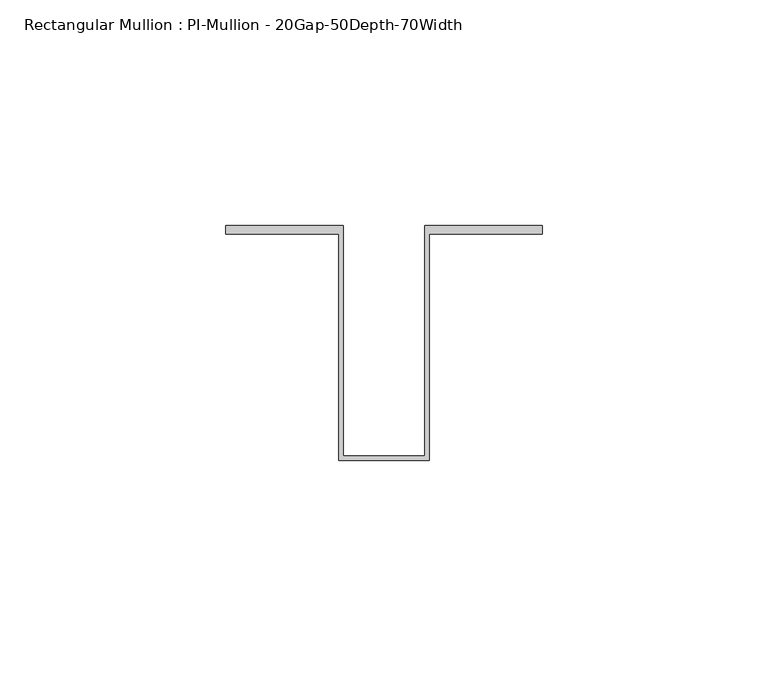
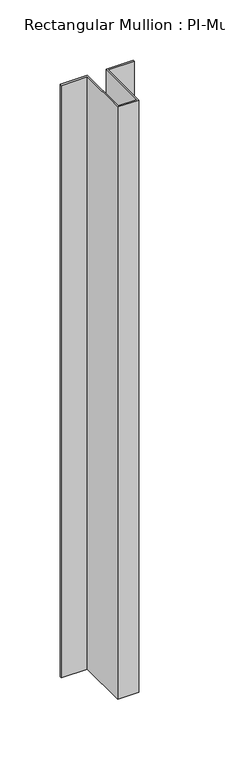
"""IFC4 building model written with IfcOpenShell, lengths in millimetres: member geometry, Rectangular Mullion : PI-Mullion - 20Gap-50Depth-70Width."""

from ifc_helpers import new_model, si_unit, frame, origin, place, context, project, spatial, polyline, outline, extrude, source, transform, mapped, element, save


def rectangular_mullion_pi_mullion_20gap_50depth_70width_4eeb9ecc(model_context):
    return source(origin(), model_context, "Body", "SweptSolid", [
        extrude(outline(polyline([(-10.0, 0.2), (-35.0, 0.2), (-35.0, 2.0), (-9.0, 2.0), (-9.0, -49.0), (9.0, -49.0), (9.0, 2.0), (35.0, 2.0), (35.0, 0.2), (10.0, 0.2), (10.0, -50.0), (-10.0, -50.0), (-10.0, 0.2)])), frame((0.0, 0.0, -600.0), z_axis=(0.0, 0.0, 1.0), x_axis=(1.0, 0.0, 0.0)), (0.0, 0.0, 1.0), 600.0),
    ])


if __name__ == "__main__":
    model = new_model("IFC4")
    model_context = context("Model", 3, world=origin())
    ifc_project = project(units=[si_unit("LENGTHUNIT", "METRE", prefix="MILLI")], contexts=[model_context])
    site = spatial("IfcSite", under=ifc_project)
    building = spatial("IfcBuilding", under=site)
    placement = place(None, origin())
    rectangular_mullion_pi_mullion_20gap_50depth_70width_shape = rectangular_mullion_pi_mullion_20gap_50depth_70width_4eeb9ecc(model_context)
    element("IfcMember", 1, ObjectType="Rectangular Mullion : PI-Mullion - 20Gap-50Depth-70Width", at=placement, inside=building, context=model_context, shape_type="MappedRepresentation", body=[
        mapped(rectangular_mullion_pi_mullion_20gap_50depth_70width_shape, transform((0.0, 0.0, 0.0), x_axis=(1.0, 0.0, 0.0), y_axis=(0.0, 1.0, 0.0), z_axis=(0.0, 0.0, 1.0))),
    ])
    save(model, "model.ifc")
